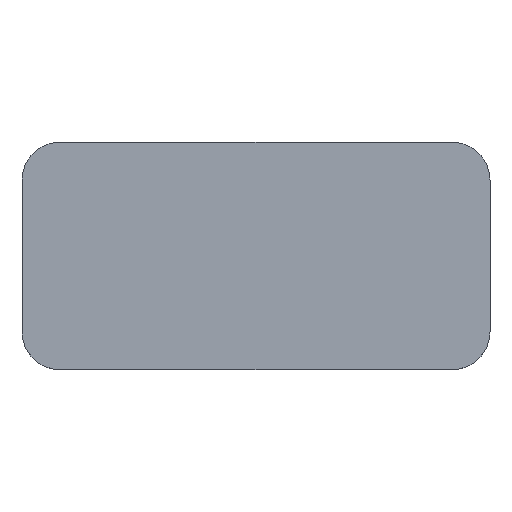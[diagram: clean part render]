
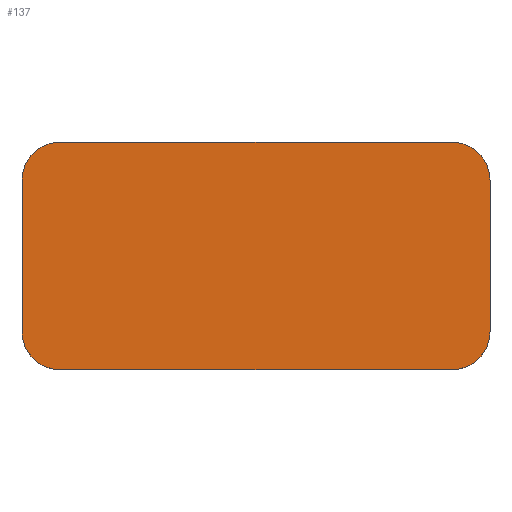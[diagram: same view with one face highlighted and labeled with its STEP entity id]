
A CAD part, top view. The second image highlights one B-rep face of the part: STEP entity #137.
In plain terms, the highlighted planar face has unit normal (0, 0, 1).
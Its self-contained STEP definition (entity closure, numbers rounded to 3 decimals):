
#21 = EDGE_CURVE('',#22,#24,#26,.T.);
#22 = VERTEX_POINT('',#23);
#23 = CARTESIAN_POINT('',(-18.525,-6.,6.));
#24 = VERTEX_POINT('',#25);
#25 = CARTESIAN_POINT('',(-18.525,6.,6.));
#26 = SURFACE_CURVE('',#27,(#31,#43),.PCURVE_S1.);
#27 = LINE('',#28,#29);
#28 = CARTESIAN_POINT('',(-18.525,-9.,6.));
#29 = VECTOR('',#30,1.);
#30 = DIRECTION('',(0.,1.,0.));
#31 = PCURVE('',#32,#37);
#32 = PLANE('',#33);
#33 = AXIS2_PLACEMENT_3D('',#34,#35,#36);
#34 = CARTESIAN_POINT('',(-18.525,-9.,0.));
#35 = DIRECTION('',(1.,0.,0.));
#36 = DIRECTION('',(0.,0.,1.));
#37 = DEFINITIONAL_REPRESENTATION('',(#38),#42);
#38 = LINE('',#39,#40);
#39 = CARTESIAN_POINT('',(6.,0.));
#40 = VECTOR('',#41,1.);
#41 = DIRECTION('',(0.,-1.));
#42 = ( GEOMETRIC_REPRESENTATION_CONTEXT(2) 
PARAMETRIC_REPRESENTATION_CONTEXT() REPRESENTATION_CONTEXT('2D SPACE',''
  ) );
#43 = PCURVE('',#44,#49);
#44 = PLANE('',#45);
#45 = AXIS2_PLACEMENT_3D('',#46,#47,#48);
#46 = CARTESIAN_POINT('',(-18.525,-9.,6.));
#47 = DIRECTION('',(0.,0.,1.));
#48 = DIRECTION('',(1.,0.,0.));
#49 = DEFINITIONAL_REPRESENTATION('',(#50),#54);
#50 = LINE('',#51,#52);
#51 = CARTESIAN_POINT('',(0.,0.));
#52 = VECTOR('',#53,1.);
#53 = DIRECTION('',(0.,1.));
#54 = ( GEOMETRIC_REPRESENTATION_CONTEXT(2) 
PARAMETRIC_REPRESENTATION_CONTEXT() REPRESENTATION_CONTEXT('2D SPACE',''
  ) );
#72 = CYLINDRICAL_SURFACE('',#73,3.);
#73 = AXIS2_PLACEMENT_3D('',#74,#75,#76);
#74 = CARTESIAN_POINT('',(-15.525,-6.,0.));
#75 = DIRECTION('',(0.,0.,1.));
#76 = DIRECTION('',(-1.,-0.,0.));
#126 = CYLINDRICAL_SURFACE('',#127,3.);
#127 = AXIS2_PLACEMENT_3D('',#128,#129,#130);
#128 = CARTESIAN_POINT('',(-15.525,6.,0.));
#129 = DIRECTION('',(0.,0.,1.));
#130 = DIRECTION('',(-1.,-0.,0.));
#137 = ADVANCED_FACE('',(#138),#44,.T.);
#138 = FACE_BOUND('',#139,.T.);
#139 = EDGE_LOOP('',(#140,#141,#165,#193,#226,#254,#283,#311));
#140 = ORIENTED_EDGE('',*,*,#21,.F.);
#141 = ORIENTED_EDGE('',*,*,#142,.T.);
#142 = EDGE_CURVE('',#22,#143,#145,.T.);
#143 = VERTEX_POINT('',#144);
#144 = CARTESIAN_POINT('',(-15.525,-9.,6.));
#145 = SURFACE_CURVE('',#146,(#151,#158),.PCURVE_S1.);
#146 = CIRCLE('',#147,3.);
#147 = AXIS2_PLACEMENT_3D('',#148,#149,#150);
#148 = CARTESIAN_POINT('',(-15.525,-6.,6.));
#149 = DIRECTION('',(0.,0.,1.));
#150 = DIRECTION('',(0.,-1.,0.));
#151 = PCURVE('',#44,#152);
#152 = DEFINITIONAL_REPRESENTATION('',(#153),#157);
#153 = CIRCLE('',#154,3.);
#154 = AXIS2_PLACEMENT_2D('',#155,#156);
#155 = CARTESIAN_POINT('',(3.,3.));
#156 = DIRECTION('',(0.,-1.));
#157 = ( GEOMETRIC_REPRESENTATION_CONTEXT(2) 
PARAMETRIC_REPRESENTATION_CONTEXT() REPRESENTATION_CONTEXT('2D SPACE',''
  ) );
#158 = PCURVE('',#72,#159);
#159 = DEFINITIONAL_REPRESENTATION('',(#160),#164);
#160 = LINE('',#161,#162);
#161 = CARTESIAN_POINT('',(-4.712,6.));
#162 = VECTOR('',#163,1.);
#163 = DIRECTION('',(1.,0.));
#164 = ( GEOMETRIC_REPRESENTATION_CONTEXT(2) 
PARAMETRIC_REPRESENTATION_CONTEXT() REPRESENTATION_CONTEXT('2D SPACE',''
  ) );
#165 = ORIENTED_EDGE('',*,*,#166,.T.);
#166 = EDGE_CURVE('',#143,#167,#169,.T.);
#167 = VERTEX_POINT('',#168);
#168 = CARTESIAN_POINT('',(15.525,-9.,6.));
#169 = SURFACE_CURVE('',#170,(#174,#181),.PCURVE_S1.);
#170 = LINE('',#171,#172);
#171 = CARTESIAN_POINT('',(-18.525,-9.,6.));
#172 = VECTOR('',#173,1.);
#173 = DIRECTION('',(1.,0.,0.));
#174 = PCURVE('',#44,#175);
#175 = DEFINITIONAL_REPRESENTATION('',(#176),#180);
#176 = LINE('',#177,#178);
#177 = CARTESIAN_POINT('',(0.,0.));
#178 = VECTOR('',#179,1.);
#179 = DIRECTION('',(1.,0.));
#180 = ( GEOMETRIC_REPRESENTATION_CONTEXT(2) 
PARAMETRIC_REPRESENTATION_CONTEXT() REPRESENTATION_CONTEXT('2D SPACE',''
  ) );
#181 = PCURVE('',#182,#187);
#182 = PLANE('',#183);
#183 = AXIS2_PLACEMENT_3D('',#184,#185,#186);
#184 = CARTESIAN_POINT('',(-18.525,-9.,0.));
#185 = DIRECTION('',(0.,1.,0.));
#186 = DIRECTION('',(0.,0.,1.));
#187 = DEFINITIONAL_REPRESENTATION('',(#188),#192);
#188 = LINE('',#189,#190);
#189 = CARTESIAN_POINT('',(6.,0.));
#190 = VECTOR('',#191,1.);
#191 = DIRECTION('',(0.,1.));
#192 = ( GEOMETRIC_REPRESENTATION_CONTEXT(2) 
PARAMETRIC_REPRESENTATION_CONTEXT() REPRESENTATION_CONTEXT('2D SPACE',''
  ) );
#193 = ORIENTED_EDGE('',*,*,#194,.F.);
#194 = EDGE_CURVE('',#195,#167,#197,.T.);
#195 = VERTEX_POINT('',#196);
#196 = CARTESIAN_POINT('',(18.525,-6.,6.));
#197 = SURFACE_CURVE('',#198,(#203,#214),.PCURVE_S1.);
#198 = CIRCLE('',#199,3.);
#199 = AXIS2_PLACEMENT_3D('',#200,#201,#202);
#200 = CARTESIAN_POINT('',(15.525,-6.,6.));
#201 = DIRECTION('',(-0.,-0.,-1.));
#202 = DIRECTION('',(0.,-1.,0.));
#203 = PCURVE('',#44,#204);
#204 = DEFINITIONAL_REPRESENTATION('',(#205),#213);
#205 = ( BOUNDED_CURVE() B_SPLINE_CURVE(2,(#206,#207,#208,#209,#210,#211
,#212),.UNSPECIFIED.,.T.,.F.) B_SPLINE_CURVE_WITH_KNOTS((1,2,2,2,2,1),(
    -2.094,0.,2.094,4.189,6.283,
8.378),.UNSPECIFIED.) CURVE() GEOMETRIC_REPRESENTATION_ITEM() 
RATIONAL_B_SPLINE_CURVE((1.,0.5,1.,0.5,1.,0.5,1.)) REPRESENTATION_ITEM(
  '') );
#206 = CARTESIAN_POINT('',(34.05,0.));
#207 = CARTESIAN_POINT('',(28.854,0.));
#208 = CARTESIAN_POINT('',(31.452,4.5));
#209 = CARTESIAN_POINT('',(34.05,9.));
#210 = CARTESIAN_POINT('',(36.648,4.5));
#211 = CARTESIAN_POINT('',(39.246,0.));
#212 = CARTESIAN_POINT('',(34.05,0.));
#213 = ( GEOMETRIC_REPRESENTATION_CONTEXT(2) 
PARAMETRIC_REPRESENTATION_CONTEXT() REPRESENTATION_CONTEXT('2D SPACE',''
  ) );
#214 = PCURVE('',#215,#220);
#215 = CYLINDRICAL_SURFACE('',#216,3.);
#216 = AXIS2_PLACEMENT_3D('',#217,#218,#219);
#217 = CARTESIAN_POINT('',(15.525,-6.,0.));
#218 = DIRECTION('',(0.,0.,1.));
#219 = DIRECTION('',(1.,0.,-0.));
#220 = DEFINITIONAL_REPRESENTATION('',(#221),#225);
#221 = LINE('',#222,#223);
#222 = CARTESIAN_POINT('',(4.712,6.));
#223 = VECTOR('',#224,1.);
#224 = DIRECTION('',(-1.,0.));
#225 = ( GEOMETRIC_REPRESENTATION_CONTEXT(2) 
PARAMETRIC_REPRESENTATION_CONTEXT() REPRESENTATION_CONTEXT('2D SPACE',''
  ) );
#226 = ORIENTED_EDGE('',*,*,#227,.T.);
#227 = EDGE_CURVE('',#195,#228,#230,.T.);
#228 = VERTEX_POINT('',#229);
#229 = CARTESIAN_POINT('',(18.525,6.,6.));
#230 = SURFACE_CURVE('',#231,(#235,#242),.PCURVE_S1.);
#231 = LINE('',#232,#233);
#232 = CARTESIAN_POINT('',(18.525,-9.,6.));
#233 = VECTOR('',#234,1.);
#234 = DIRECTION('',(0.,1.,0.));
#235 = PCURVE('',#44,#236);
#236 = DEFINITIONAL_REPRESENTATION('',(#237),#241);
#237 = LINE('',#238,#239);
#238 = CARTESIAN_POINT('',(37.05,0.));
#239 = VECTOR('',#240,1.);
#240 = DIRECTION('',(0.,1.));
#241 = ( GEOMETRIC_REPRESENTATION_CONTEXT(2) 
PARAMETRIC_REPRESENTATION_CONTEXT() REPRESENTATION_CONTEXT('2D SPACE',''
  ) );
#242 = PCURVE('',#243,#248);
#243 = PLANE('',#244);
#244 = AXIS2_PLACEMENT_3D('',#245,#246,#247);
#245 = CARTESIAN_POINT('',(18.525,-9.,0.));
#246 = DIRECTION('',(1.,0.,0.));
#247 = DIRECTION('',(0.,0.,1.));
#248 = DEFINITIONAL_REPRESENTATION('',(#249),#253);
#249 = LINE('',#250,#251);
#250 = CARTESIAN_POINT('',(6.,0.));
#251 = VECTOR('',#252,1.);
#252 = DIRECTION('',(0.,-1.));
#253 = ( GEOMETRIC_REPRESENTATION_CONTEXT(2) 
PARAMETRIC_REPRESENTATION_CONTEXT() REPRESENTATION_CONTEXT('2D SPACE',''
  ) );
#254 = ORIENTED_EDGE('',*,*,#255,.T.);
#255 = EDGE_CURVE('',#228,#256,#258,.T.);
#256 = VERTEX_POINT('',#257);
#257 = CARTESIAN_POINT('',(15.525,9.,6.));
#258 = SURFACE_CURVE('',#259,(#264,#271),.PCURVE_S1.);
#259 = CIRCLE('',#260,3.);
#260 = AXIS2_PLACEMENT_3D('',#261,#262,#263);
#261 = CARTESIAN_POINT('',(15.525,6.,6.));
#262 = DIRECTION('',(0.,0.,1.));
#263 = DIRECTION('',(0.,-1.,0.));
#264 = PCURVE('',#44,#265);
#265 = DEFINITIONAL_REPRESENTATION('',(#266),#270);
#266 = CIRCLE('',#267,3.);
#267 = AXIS2_PLACEMENT_2D('',#268,#269);
#268 = CARTESIAN_POINT('',(34.05,15.));
#269 = DIRECTION('',(0.,-1.));
#270 = ( GEOMETRIC_REPRESENTATION_CONTEXT(2) 
PARAMETRIC_REPRESENTATION_CONTEXT() REPRESENTATION_CONTEXT('2D SPACE',''
  ) );
#271 = PCURVE('',#272,#277);
#272 = CYLINDRICAL_SURFACE('',#273,3.);
#273 = AXIS2_PLACEMENT_3D('',#274,#275,#276);
#274 = CARTESIAN_POINT('',(15.525,6.,0.));
#275 = DIRECTION('',(0.,0.,1.));
#276 = DIRECTION('',(1.,0.,-0.));
#277 = DEFINITIONAL_REPRESENTATION('',(#278),#282);
#278 = LINE('',#279,#280);
#279 = CARTESIAN_POINT('',(-1.571,6.));
#280 = VECTOR('',#281,1.);
#281 = DIRECTION('',(1.,0.));
#282 = ( GEOMETRIC_REPRESENTATION_CONTEXT(2) 
PARAMETRIC_REPRESENTATION_CONTEXT() REPRESENTATION_CONTEXT('2D SPACE',''
  ) );
#283 = ORIENTED_EDGE('',*,*,#284,.F.);
#284 = EDGE_CURVE('',#285,#256,#287,.T.);
#285 = VERTEX_POINT('',#286);
#286 = CARTESIAN_POINT('',(-15.525,9.,6.));
#287 = SURFACE_CURVE('',#288,(#292,#299),.PCURVE_S1.);
#288 = LINE('',#289,#290);
#289 = CARTESIAN_POINT('',(-18.525,9.,6.));
#290 = VECTOR('',#291,1.);
#291 = DIRECTION('',(1.,0.,0.));
#292 = PCURVE('',#44,#293);
#293 = DEFINITIONAL_REPRESENTATION('',(#294),#298);
#294 = LINE('',#295,#296);
#295 = CARTESIAN_POINT('',(0.,18.));
#296 = VECTOR('',#297,1.);
#297 = DIRECTION('',(1.,0.));
#298 = ( GEOMETRIC_REPRESENTATION_CONTEXT(2) 
PARAMETRIC_REPRESENTATION_CONTEXT() REPRESENTATION_CONTEXT('2D SPACE',''
  ) );
#299 = PCURVE('',#300,#305);
#300 = PLANE('',#301);
#301 = AXIS2_PLACEMENT_3D('',#302,#303,#304);
#302 = CARTESIAN_POINT('',(-18.525,9.,0.));
#303 = DIRECTION('',(0.,1.,0.));
#304 = DIRECTION('',(0.,0.,1.));
#305 = DEFINITIONAL_REPRESENTATION('',(#306),#310);
#306 = LINE('',#307,#308);
#307 = CARTESIAN_POINT('',(6.,0.));
#308 = VECTOR('',#309,1.);
#309 = DIRECTION('',(0.,1.));
#310 = ( GEOMETRIC_REPRESENTATION_CONTEXT(2) 
PARAMETRIC_REPRESENTATION_CONTEXT() REPRESENTATION_CONTEXT('2D SPACE',''
  ) );
#311 = ORIENTED_EDGE('',*,*,#312,.F.);
#312 = EDGE_CURVE('',#24,#285,#313,.T.);
#313 = SURFACE_CURVE('',#314,(#319,#330),.PCURVE_S1.);
#314 = CIRCLE('',#315,3.);
#315 = AXIS2_PLACEMENT_3D('',#316,#317,#318);
#316 = CARTESIAN_POINT('',(-15.525,6.,6.));
#317 = DIRECTION('',(-0.,-0.,-1.));
#318 = DIRECTION('',(0.,-1.,0.));
#319 = PCURVE('',#44,#320);
#320 = DEFINITIONAL_REPRESENTATION('',(#321),#329);
#321 = ( BOUNDED_CURVE() B_SPLINE_CURVE(2,(#322,#323,#324,#325,#326,#327
,#328),.UNSPECIFIED.,.T.,.F.) B_SPLINE_CURVE_WITH_KNOTS((1,2,2,2,2,1),(
    -2.094,0.,2.094,4.189,6.283,
8.378),.UNSPECIFIED.) CURVE() GEOMETRIC_REPRESENTATION_ITEM() 
RATIONAL_B_SPLINE_CURVE((1.,0.5,1.,0.5,1.,0.5,1.)) REPRESENTATION_ITEM(
  '') );
#322 = CARTESIAN_POINT('',(3.,12.));
#323 = CARTESIAN_POINT('',(-2.196,12.));
#324 = CARTESIAN_POINT('',(0.402,16.5));
#325 = CARTESIAN_POINT('',(3.,21.));
#326 = CARTESIAN_POINT('',(5.598,16.5));
#327 = CARTESIAN_POINT('',(8.196,12.));
#328 = CARTESIAN_POINT('',(3.,12.));
#329 = ( GEOMETRIC_REPRESENTATION_CONTEXT(2) 
PARAMETRIC_REPRESENTATION_CONTEXT() REPRESENTATION_CONTEXT('2D SPACE',''
  ) );
#330 = PCURVE('',#126,#331);
#331 = DEFINITIONAL_REPRESENTATION('',(#332),#336);
#332 = LINE('',#333,#334);
#333 = CARTESIAN_POINT('',(1.571,6.));
#334 = VECTOR('',#335,1.);
#335 = DIRECTION('',(-1.,0.));
#336 = ( GEOMETRIC_REPRESENTATION_CONTEXT(2) 
PARAMETRIC_REPRESENTATION_CONTEXT() REPRESENTATION_CONTEXT('2D SPACE',''
  ) );
